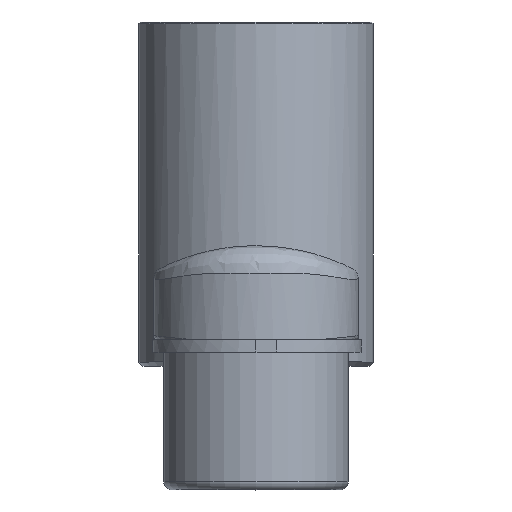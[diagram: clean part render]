
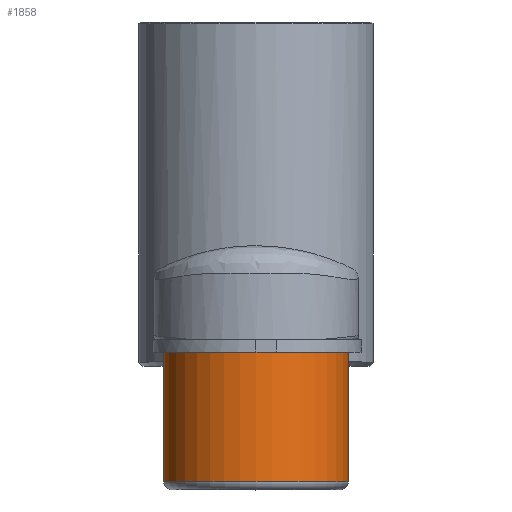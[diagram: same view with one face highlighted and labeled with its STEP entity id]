
A CAD part, top view. The second image highlights one B-rep face of the part: STEP entity #1858.
In plain terms, the highlighted cylindrical face has radius 11.4 mm (diameter 22.8 mm), a partial arc.
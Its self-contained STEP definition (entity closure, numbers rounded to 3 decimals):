
#48 = LINE ( 'NONE', #794, #1720 ) ;
#156 = CARTESIAN_POINT ( 'NONE',  ( 0., -0.55, 150. ) ) ;
#165 = DIRECTION ( 'NONE',  ( 0., 1., 0. ) ) ;
#243 = EDGE_CURVE ( 'NONE', #800, #1522, #1446, .T. ) ;
#380 = EDGE_CURVE ( 'NONE', #1148, #800, #48, .T. ) ;
#390 = EDGE_CURVE ( 'NONE', #605, #1522, #613, .T. ) ;
#410 = CARTESIAN_POINT ( 'NONE',  ( 11.4, -0.55, 150. ) ) ;
#468 = VECTOR ( 'NONE', #165, 1000. ) ;
#605 = VERTEX_POINT ( 'NONE', #1768 ) ;
#613 = LINE ( 'NONE', #786, #468 ) ;
#628 = FACE_OUTER_BOUND ( 'NONE', #1042, .T. ) ;
#732 = ORIENTED_EDGE ( 'NONE', *, *, #390, .F. ) ;
#746 = DIRECTION ( 'NONE',  ( -1., 0., 0. ) ) ;
#758 = CYLINDRICAL_SURFACE ( 'NONE', #1724, 11.4 ) ;
#759 = ORIENTED_EDGE ( 'NONE', *, *, #380, .T. ) ;
#778 = DIRECTION ( 'NONE',  ( 0., 1., 0. ) ) ;
#786 = CARTESIAN_POINT ( 'NONE',  ( -11.4, -17.55, 150. ) ) ;
#794 = CARTESIAN_POINT ( 'NONE',  ( 11.4, -17.55, 150. ) ) ;
#800 = VERTEX_POINT ( 'NONE', #410 ) ;
#907 = CARTESIAN_POINT ( 'NONE',  ( -11.4, -0.55, 150. ) ) ;
#927 = DIRECTION ( 'NONE',  ( 1., 0., 0. ) ) ;
#949 = CARTESIAN_POINT ( 'NONE',  ( 0., -16.55, 150. ) ) ;
#950 = ORIENTED_EDGE ( 'NONE', *, *, #243, .T. ) ;
#1042 = EDGE_LOOP ( 'NONE', ( #732, #1549, #759, #950 ) ) ;
#1143 = AXIS2_PLACEMENT_3D ( 'NONE', #949, #1495, #1210 ) ;
#1148 = VERTEX_POINT ( 'NONE', #1482 ) ;
#1205 = DIRECTION ( 'NONE',  ( 0., 1., 0. ) ) ;
#1210 = DIRECTION ( 'NONE',  ( -1., 0., 0. ) ) ;
#1217 = CARTESIAN_POINT ( 'NONE',  ( 0., -17.55, 150. ) ) ;
#1325 = AXIS2_PLACEMENT_3D ( 'NONE', #156, #1624, #746 ) ;
#1358 = CIRCLE ( 'NONE', #1143, 11.4 ) ;
#1446 = CIRCLE ( 'NONE', #1325, 11.4 ) ;
#1482 = CARTESIAN_POINT ( 'NONE',  ( 11.4, -16.55, 150. ) ) ;
#1495 = DIRECTION ( 'NONE',  ( 0., 1., 0. ) ) ;
#1522 = VERTEX_POINT ( 'NONE', #907 ) ;
#1549 = ORIENTED_EDGE ( 'NONE', *, *, #1756, .T. ) ;
#1624 = DIRECTION ( 'NONE',  ( 0., -1., 0. ) ) ;
#1720 = VECTOR ( 'NONE', #1205, 1000. ) ;
#1724 = AXIS2_PLACEMENT_3D ( 'NONE', #1217, #778, #927 ) ;
#1756 = EDGE_CURVE ( 'NONE', #605, #1148, #1358, .T. ) ;
#1768 = CARTESIAN_POINT ( 'NONE',  ( -11.4, -16.55, 150. ) ) ;
#1858 = ADVANCED_FACE ( 'NONE', ( #628 ), #758, .T. ) ;
